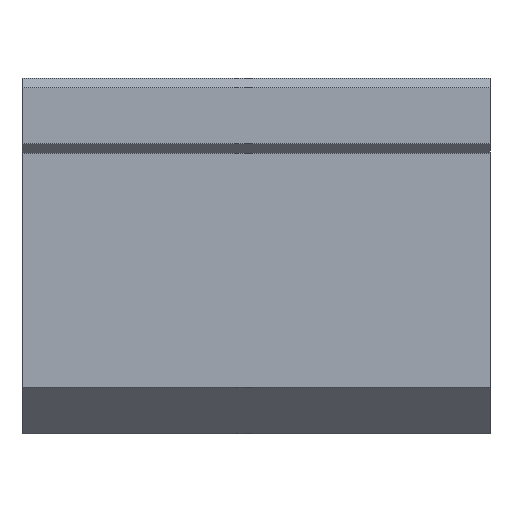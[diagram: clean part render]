
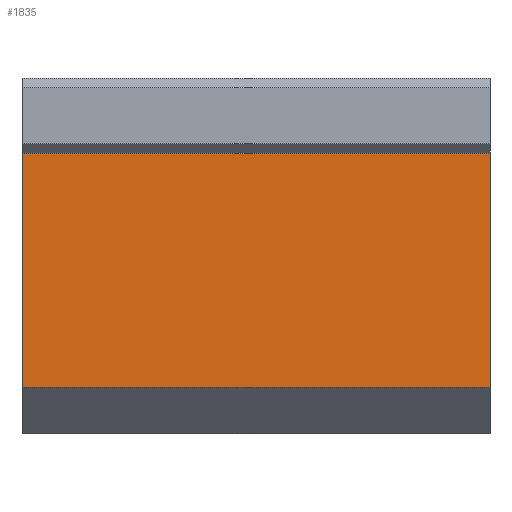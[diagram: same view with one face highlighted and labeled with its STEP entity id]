
A CAD part, front view. The second image highlights one B-rep face of the part: STEP entity #1835.
In plain terms, the highlighted planar face has unit normal (0, -1, 0).
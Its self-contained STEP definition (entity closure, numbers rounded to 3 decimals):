
#1606=CARTESIAN_POINT('',(0.0,-23.,-10.));
#1607=VERTEX_POINT('',#1606);
#1614=CARTESIAN_POINT('',(0.0,-23.,15.));
#1615=VERTEX_POINT('',#1614);
#1616=CARTESIAN_POINT('',(0.0,-23.,15.));
#1617=DIRECTION('',(0.0,0.0,-1.0));
#1618=VECTOR('',#1617,25.);
#1619=LINE('',#1616,#1618);
#1620=EDGE_CURVE('',#1615,#1607,#1619,.T.);
#1787=CARTESIAN_POINT('',(50.0,-23.,15.));
#1788=VERTEX_POINT('',#1787);
#1789=CARTESIAN_POINT('',(0.0,-23.,15.));
#1790=DIRECTION('',(1.0,0.0,0.0));
#1791=VECTOR('',#1790,50.0);
#1792=LINE('',#1789,#1791);
#1793=EDGE_CURVE('',#1615,#1788,#1792,.T.);
#1812=CARTESIAN_POINT('',(0.0,-23.,-15.));
#1813=DIRECTION('',(0.0,-1.0,0.0));
#1814=DIRECTION('',(0.0,0.0,-1.0));
#1815=AXIS2_PLACEMENT_3D('',#1812,#1813,#1814);
#1816=PLANE('',#1815);
#1817=ORIENTED_EDGE('',*,*,#1793,.F.);
#1818=ORIENTED_EDGE('',*,*,#1620,.T.);
#1819=CARTESIAN_POINT('',(50.0,-23.,-10.));
#1820=VERTEX_POINT('',#1819);
#1821=CARTESIAN_POINT('',(50.0,-23.,-10.));
#1822=DIRECTION('',(-1.0,0.0,0.0));
#1823=VECTOR('',#1822,50.0);
#1824=LINE('',#1821,#1823);
#1825=EDGE_CURVE('',#1820,#1607,#1824,.T.);
#1826=ORIENTED_EDGE('',*,*,#1825,.F.);
#1827=CARTESIAN_POINT('',(50.0,-23.,-10.));
#1828=DIRECTION('',(0.0,0.0,1.0));
#1829=VECTOR('',#1828,25.);
#1830=LINE('',#1827,#1829);
#1831=EDGE_CURVE('',#1820,#1788,#1830,.T.);
#1832=ORIENTED_EDGE('',*,*,#1831,.T.);
#1833=EDGE_LOOP('',(#1817,#1818,#1826,#1832));
#1834=FACE_OUTER_BOUND('',#1833,.T.);
#1835=ADVANCED_FACE('',(#1834),#1816,.T.);
